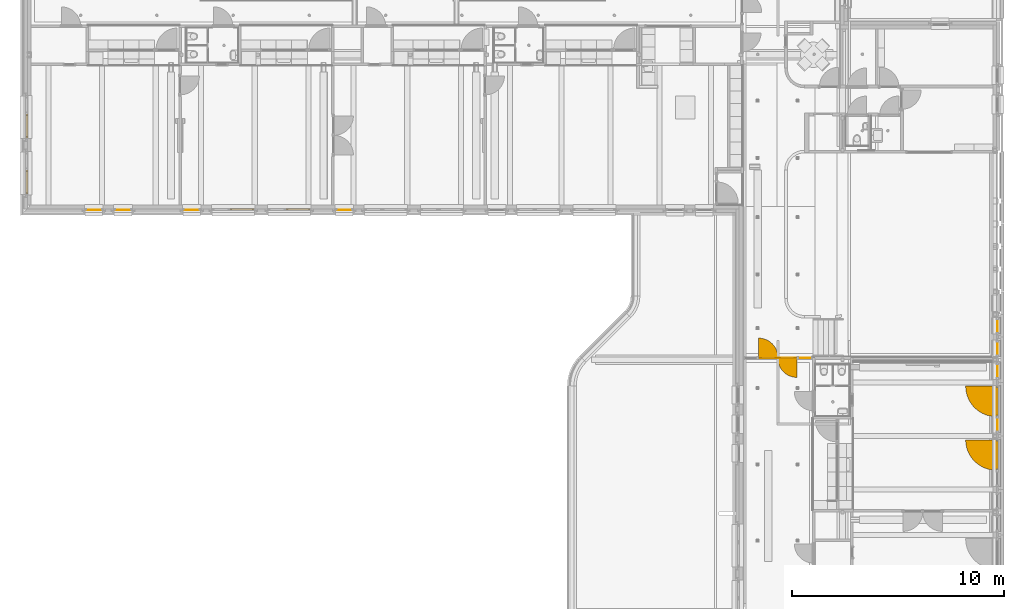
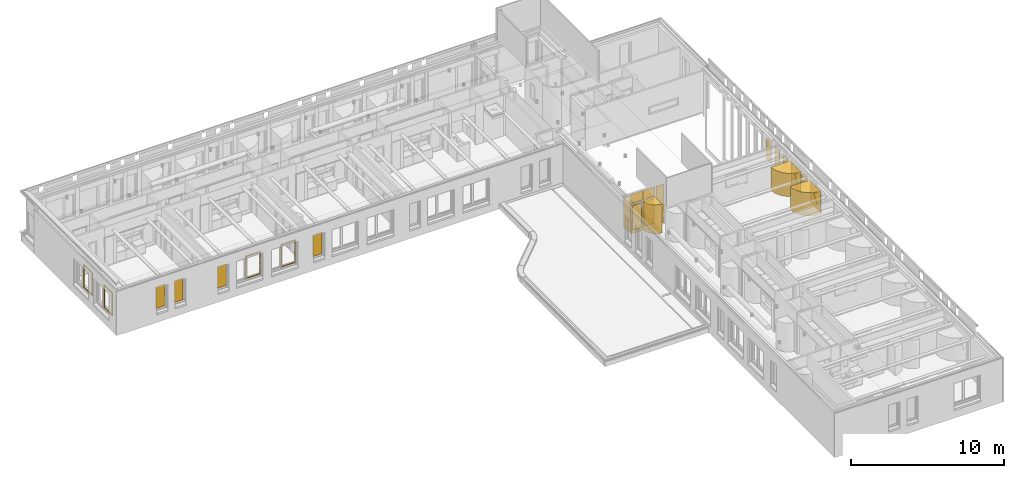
# One storey, part 66 of 128: 25 windows, 2 doors, 7 elements without a shape of their own.
"""IFC2X3 building model written with IfcOpenShell, lengths in millimetres."""

from ifc_helpers import new_model, entity, si_unit, converted_unit, derived_unit, direction, frame, frame_2d, origin, origin_2d_with_axis, place, context, subcontext, project, spatial, polyline, circle_curve, parameter, trimmed, segment, composite_curve, rectangle, outline, extrude, source, transform, mapped, material, type_object, type_shapes, element, aggregate, save


model = new_model("IFC2X3")

# Units and contexts
model_context = context("Model", 3, precision=0.01, world=origin(), true_north=direction((6.123031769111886e-17, 1.0)))
body_context = subcontext(model_context, "Body", "Model", "MODEL_VIEW")
ifc_project = project(units=[si_unit("LENGTHUNIT", "METRE", prefix="MILLI"), si_unit("AREAUNIT", "SQUARE_METRE"), si_unit("VOLUMEUNIT", "CUBIC_METRE"), converted_unit("PLANEANGLEUNIT", "DEGREE", entity("IfcRatioMeasure", 0.017453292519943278), si_unit("PLANEANGLEUNIT", "RADIAN"), dimensions=[0, 0, 0, 0, 0, 0, 0]), si_unit("MASSUNIT", "GRAM", prefix="KILO"), derived_unit("MASSDENSITYUNIT", [(si_unit("MASSUNIT", "GRAM", prefix="KILO"), 1), (si_unit("LENGTHUNIT", "METRE"), -3)]), derived_unit("IONCONCENTRATIONUNIT", [(si_unit("MASSUNIT", "GRAM", prefix="KILO"), 1), (si_unit("LENGTHUNIT", "METRE"), -3)]), derived_unit("MOMENTOFINERTIAUNIT", [(si_unit("LENGTHUNIT", "METRE"), 4)]), si_unit("TIMEUNIT", "SECOND"), si_unit("FREQUENCYUNIT", "HERTZ"), si_unit("THERMODYNAMICTEMPERATUREUNIT", "DEGREE_CELSIUS"), derived_unit("THERMALTRANSMITTANCEUNIT", [(si_unit("MASSUNIT", "GRAM", prefix="KILO"), 1), (si_unit("THERMODYNAMICTEMPERATUREUNIT", "KELVIN"), -1), (si_unit("TIMEUNIT", "SECOND"), -3)]), derived_unit("THERMALCONDUCTANCEUNIT", [(si_unit("MASSUNIT", "GRAM", prefix="KILO"), 1), (si_unit("THERMODYNAMICTEMPERATUREUNIT", "KELVIN"), -1), (si_unit("TIMEUNIT", "SECOND"), -3), (si_unit("LENGTHUNIT", "METRE"), 1)]), derived_unit("VOLUMETRICFLOWRATEUNIT", [(si_unit("LENGTHUNIT", "METRE"), 3), (si_unit("TIMEUNIT", "SECOND"), -1)]), derived_unit("MASSFLOWRATEUNIT", [(si_unit("MASSUNIT", "GRAM", prefix="KILO"), 1), (si_unit("TIMEUNIT", "SECOND"), -1)]), derived_unit("ROTATIONALFREQUENCYUNIT", [(si_unit("TIMEUNIT", "SECOND"), -1)]), si_unit("ELECTRICCURRENTUNIT", "AMPERE"), si_unit("ELECTRICVOLTAGEUNIT", "VOLT"), si_unit("POWERUNIT", "WATT"), si_unit("FORCEUNIT", "NEWTON", prefix="KILO"), si_unit("ILLUMINANCEUNIT", "LUX"), si_unit("LUMINOUSFLUXUNIT", "LUMEN"), si_unit("LUMINOUSINTENSITYUNIT", "CANDELA"), derived_unit("USERDEFINED", [(si_unit("MASSUNIT", "GRAM", prefix="KILO"), -1), (si_unit("LENGTHUNIT", "METRE"), -2), (si_unit("TIMEUNIT", "SECOND"), 3), (si_unit("LUMINOUSFLUXUNIT", "LUMEN"), 1)]), derived_unit("USERDEFINED", [(si_unit("MASSUNIT", "GRAM", prefix="KILO"), 1), (si_unit("TIMEUNIT", "SECOND"), -3), (si_unit("LENGTHUNIT", "METRE"), 3), (si_unit("ELECTRICCURRENTUNIT", "AMPERE"), -2)]), derived_unit("SOUNDPOWERUNIT", [(si_unit("MASSUNIT", "GRAM", prefix="KILO"), 1), (si_unit("TIMEUNIT", "SECOND"), -3), (si_unit("LENGTHUNIT", "METRE"), 2)]), derived_unit("SOUNDPRESSUREUNIT", [(si_unit("MASSUNIT", "GRAM", prefix="KILO"), 1), (si_unit("LENGTHUNIT", "METRE"), -1), (si_unit("TIMEUNIT", "SECOND"), -2)]), derived_unit("LINEARVELOCITYUNIT", [(si_unit("LENGTHUNIT", "METRE"), 1), (si_unit("TIMEUNIT", "SECOND"), -1)]), si_unit("PRESSUREUNIT", "PASCAL"), derived_unit("USERDEFINED", [(si_unit("MASSUNIT", "GRAM", prefix="KILO"), 1), (si_unit("LENGTHUNIT", "METRE"), -2), (si_unit("TIMEUNIT", "SECOND"), -2)]), derived_unit("LINEARFORCEUNIT", [(si_unit("MASSUNIT", "GRAM", prefix="KILO"), 1), (si_unit("TIMEUNIT", "SECOND"), -2)]), derived_unit("PLANARFORCEUNIT", [(si_unit("MASSUNIT", "GRAM", prefix="KILO"), 1), (si_unit("LENGTHUNIT", "METRE"), -1), (si_unit("TIMEUNIT", "SECOND"), -2)]), derived_unit("SPECIFICHEATCAPACITYUNIT", [(si_unit("THERMODYNAMICTEMPERATUREUNIT", "KELVIN"), -1), (si_unit("LENGTHUNIT", "METRE"), 2), (si_unit("TIMEUNIT", "SECOND"), -2)]), derived_unit("HEATINGVALUEUNIT", [(si_unit("LENGTHUNIT", "METRE"), 2), (si_unit("TIMEUNIT", "SECOND"), -2)]), derived_unit("VAPORPERMEABILITYUNIT", [(si_unit("LENGTHUNIT", "METRE"), -1), (si_unit("TIMEUNIT", "SECOND"), 1)]), derived_unit("DYNAMICVISCOSITYUNIT", [(si_unit("MASSUNIT", "GRAM", prefix="KILO"), 1), (si_unit("TIMEUNIT", "SECOND"), -1), (si_unit("LENGTHUNIT", "METRE"), -1)]), derived_unit("THERMALEXPANSIONCOEFFICIENTUNIT", [(si_unit("THERMODYNAMICTEMPERATUREUNIT", "KELVIN"), -1)]), derived_unit("MODULUSOFELASTICITYUNIT", [(si_unit("MASSUNIT", "GRAM", prefix="KILO"), 1), (si_unit("LENGTHUNIT", "METRE"), -1), (si_unit("TIMEUNIT", "SECOND"), -2)]), derived_unit("ISOTHERMALMOISTURECAPACITYUNIT", [(si_unit("LENGTHUNIT", "METRE"), 3), (si_unit("MASSUNIT", "GRAM", prefix="KILO"), -1)]), derived_unit("MOISTUREDIFFUSIVITYUNIT", [(si_unit("TIMEUNIT", "SECOND"), -1), (si_unit("LENGTHUNIT", "METRE"), 2)])], contexts=[model_context])

# Site, building, storey
site_placement = place(None, frame((0.0, 300.0, 0.0)))
site = spatial("IfcSite", under=ifc_project, at=site_placement, Name="<Kadastrale nummers>", CompositionType="ELEMENT")
building_placement = place(site_placement, origin())
building = spatial("IfcBuilding", under=site, at=building_placement, CompositionType="ELEMENT")
storey_placement = place(building_placement, frame((0.0, 0.0, 3560.0000331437)))
storey = spatial("IfcBuildingStorey", under=building, at=storey_placement, Name="01 eerste verdieping", CompositionType="ELEMENT", Elevation=3560.0000331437)

# Curtain wall, doors
curtain_wall_type_1 = type_object("IfcCurtainWallType", Name="Curtain Wall:Merk H12", PredefinedType="NOTDEFINED")
curtain_wall_1_placement = place(storey_placement, frame((0.0, 0.0, -3560.0000331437)))
curtain_wall_1 = element("IfcCurtainWall", 1, at=curtain_wall_1_placement, inside=storey, type_object=curtain_wall_type_1, Name="Curtain Wall:Merk H12", ObjectType="Curtain Wall:Merk H12")
ifc_material_1 = material(Name="HPL F7853 ocean gray")
door_style_1 = type_object("IfcDoorStyle", Name="31_DO_deur_met_stapeldorpel:deur_met_stapeldorpel", ConstructionType="NOTDEFINED", OperationType="NOTDEFINED", ParameterTakesPrecedence=False, Sizeable=False, material=ifc_material_1)
shared_shape_1 = source(origin(), body_context, "Body", "SweptSolid", [
    extrude(outline(polyline([(-451.8749999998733, -1151.4999999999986), (451.8749999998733, -1151.4999999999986), (451.8749999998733, 1151.4999999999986), (-451.8749999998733, 1151.4999999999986), (-451.8749999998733, -1151.4999999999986)]), holes=[polyline([(-331.87499999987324, 911.4999999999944), (331.8749999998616, 911.4999999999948), (331.87499999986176, -1031.4999999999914), (-331.8749999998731, -1031.4999999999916), (-331.87499999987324, 911.4999999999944)])]), frame((0.0, 57.0, 1151.5000000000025), z_axis=(0.0, 1.0, 0.0), x_axis=(1.0, 0.0, 0.0)), (0.0, 0.0, 1.0), 26.999999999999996),
    extrude(outline(polyline([(-451.8749999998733, -1151.4999999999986), (451.8749999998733, -1151.4999999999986), (451.8749999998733, 1151.4999999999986), (-451.8749999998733, 1151.4999999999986), (-451.8749999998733, -1151.4999999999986)]), holes=[polyline([(-331.87499999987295, 911.4999999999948), (331.8749999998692, 911.4999999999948), (331.87499999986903, -1031.499999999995), (-331.8749999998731, -1031.499999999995), (-331.87499999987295, 911.4999999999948)])]), frame((0.0, 30.0, 1151.5000000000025), z_axis=(0.0, 1.0, 0.0), x_axis=(1.0, 0.0, 0.0)), (0.0, 0.0, 1.0), 26.99999999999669),
])
type_shapes(door_style_1, [shared_shape_1])
door_1_placement = place(curtain_wall_1_placement, frame((37898.12500000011, 30936.0, 3670.0000350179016)))
door_1 = element("IfcDoor", 2, at=door_1_placement, type_object=door_style_1, material=ifc_material_1, Name="31_DO_deur_met_stapeldorpel:deur_met_stapeldorpel", ObjectType="31_DO_deur_met_stapeldorpel:deur_met_stapeldorpel", OverallHeight=2303.000000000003, OverallWidth=903.749999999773, context=body_context, shape_type="MappedRepresentation", body=[
    mapped(shared_shape_1, transform((0.0, 0.0, 0.0), scale=1.0)),
])
door_style_2 = type_object("IfcDoorStyle", Name="31_DO_deur_met_stapeldorpel:deur_met_stapeldorpel", ConstructionType="NOTDEFINED", OperationType="NOTDEFINED", ParameterTakesPrecedence=False, Sizeable=False, material=ifc_material_1)
shared_shape_2 = source(origin(), body_context, "Body", "SweptSolid", [
    extrude(outline(polyline([(-448.12500000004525, -1151.4999999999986), (448.12500000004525, -1151.4999999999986), (448.12500000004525, 1151.4999999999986), (-448.12500000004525, 1151.4999999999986), (-448.12500000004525, -1151.4999999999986)]), holes=[polyline([(-328.1250000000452, 911.4999999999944), (328.12500000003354, 911.4999999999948), (328.1250000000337, -1031.4999999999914), (-328.1250000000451, -1031.4999999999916), (-328.1250000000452, 911.4999999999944)])]), frame((0.0, 57.0, 1151.5000000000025), z_axis=(0.0, 1.0, 0.0), x_axis=(1.0, 0.0, 0.0)), (0.0, 0.0, 1.0), 26.999999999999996),
    extrude(outline(polyline([(-448.12500000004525, -1151.4999999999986), (448.12500000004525, -1151.4999999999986), (448.12500000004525, 1151.4999999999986), (-448.12500000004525, 1151.4999999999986), (-448.12500000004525, -1151.4999999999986)]), holes=[polyline([(-328.1250000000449, 911.4999999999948), (328.12500000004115, 911.4999999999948), (328.125000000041, -1031.499999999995), (-328.1250000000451, -1031.499999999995), (-328.1250000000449, 911.4999999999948)])]), frame((0.0, 30.0, 1151.5000000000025), z_axis=(0.0, 1.0, 0.0), x_axis=(1.0, 0.0, 0.0)), (0.0, 0.0, 1.0), 26.99999999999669),
])
type_shapes(door_style_2, [shared_shape_2])
door_2_placement = place(curtain_wall_1_placement, frame((38798.12500000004, 30936.0, 3670.0000350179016)))
door_2 = element("IfcDoor", 3, at=door_2_placement, type_object=door_style_2, material=ifc_material_1, Name="31_DO_deur_met_stapeldorpel:deur_met_stapeldorpel", ObjectType="31_DO_deur_met_stapeldorpel:deur_met_stapeldorpel", OverallHeight=2303.0000000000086, OverallWidth=896.2500000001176, context=body_context, shape_type="MappedRepresentation", body=[
    mapped(shared_shape_2, transform((0.0, 0.0, 0.0), scale=1.0)),
])
aggregate(curtain_wall_1, [door_1, door_2])

# Windows
ifc_material_2 = material(Name="glas_enscape")
window_style_1 = type_object("IfcWindowStyle", Name="WI_subvak1:glas 4", ConstructionType="NOTDEFINED", OperationType="NOTDEFINED", ParameterTakesPrecedence=False, Sizeable=False, material=ifc_material_2)
shared_shape_3 = source(origin(), body_context, "Body", "SweptSolid", [
    extrude(rectangle(XDim=24.000000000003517, YDim=581.7499999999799, at=origin_2d_with_axis()), frame((0.0, 0.0, 0.0), z_axis=(0.0, 0.0, 1.0), x_axis=(0.0, -1.0, 0.0)), (0.0, 0.0, 1.0), 3055.9999999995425),
])
type_shapes(window_style_1, [shared_shape_3])
window_1_placement = place(storey_placement, frame((39627.12500000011, 30993.0, 157.00000187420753)))
element("IfcWindow", 4, at=window_1_placement, inside=storey, type_object=window_style_1, material=ifc_material_2, Name="WI_subvak1:glas 4", ObjectType="WI_subvak1:glas 4", OverallHeight=609.9286498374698, OverallWidth=581.7499999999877, context=body_context, shape_type="MappedRepresentation", body=[
    mapped(shared_shape_3, transform((0.0, 0.0, 0.0), scale=1.0)),
])
window_style_2 = type_object("IfcWindowStyle", Name="WI_subvak1:glas 2", ConstructionType="NOTDEFINED", OperationType="NOTDEFINED", ParameterTakesPrecedence=False, Sizeable=False, material=ifc_material_2)
shared_shape_4 = source(origin(), body_context, "Body", "SweptSolid", [
    extrude(rectangle(XDim=24.00000000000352, YDim=656.2500000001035, at=frame_2d((0.0, 5.684341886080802e-14), x_axis=(1.0, 0.0))), frame((0.0, 0.0, 0.0), z_axis=(0.0, 0.0, 1.0), x_axis=(0.0, -1.0, 0.0)), (0.0, 0.0, 1.0), 1942.9999999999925),
])
type_shapes(window_style_2, [shared_shape_4])
window_2_placement = place(storey_placement, frame((38798.12500000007, 30993.0, 350.0000018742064)))
element("IfcWindow", 5, at=window_2_placement, inside=storey, type_object=window_style_2, material=ifc_material_2, Name="WI_subvak1:glas 2", ObjectType="WI_subvak1:glas 2", OverallHeight=609.9286498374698, OverallWidth=656.2500000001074, context=body_context, shape_type="MappedRepresentation", body=[
    mapped(shared_shape_4, transform((0.0, 0.0, 0.0), scale=1.0)),
])
ifc_material_3 = material(Name="Clearance Zones")
window_style_3 = type_object("IfcWindowStyle", Name="BI deur rechts:BI deur rechts", ConstructionType="NOTDEFINED", OperationType="NOTDEFINED", ParameterTakesPrecedence=False, Sizeable=False, material=ifc_material_3)
shared_shape_5 = source(origin(), body_context, "Body", "SweptSolid", [
    extrude(outline(composite_curve([segment(trimmed(circle_curve(frame_2d((298.75000000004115, 298.7500000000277), x_axis=(1.0, 0.0)), 896.2500000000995), [parameter(179.99999999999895)], [parameter(269.9999999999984)], True, "PARAMETER"), True, "CONTINUOUS"), segment(polyline([(298.75000000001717, -597.5000000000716), (298.75000000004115, 298.7500000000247)]), True, "CONTINUOUS"), segment(polyline([(298.75000000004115, 298.7500000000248), (-597.5000000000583, 298.7500000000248)]), True, "CONTINUOUS")], self_intersect=False)), frame((-149.37500000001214, 325.7500000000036, 0.0), z_axis=(0.0, 0.0, 1.0), x_axis=(-1.0, 0.0, 0.0)), (0.0, 0.0, 1.0), 2302.9999999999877),
])
type_shapes(window_style_3, [shared_shape_5])
window_3_placement = place(storey_placement, frame((38798.12500000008, 30993.0, 110.0000018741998), z_axis=(0.0, 0.0, 1.0), x_axis=(-1.0, 0.0, 0.0)))
element("IfcWindow", 6, at=window_3_placement, inside=storey, type_object=window_style_3, material=ifc_material_3, Name="BI deur rechts:BI deur rechts", ObjectType="BI deur rechts:BI deur rechts", OverallHeight=1180.2500000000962, OverallWidth=896.2500000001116, context=body_context, shape_type="MappedRepresentation", body=[
    mapped(shared_shape_5, transform((0.0, 0.0, 0.0), scale=1.0)),
])
window_style_4 = type_object("IfcWindowStyle", Name="WI_subvak1:glas 2", ConstructionType="NOTDEFINED", OperationType="NOTDEFINED", ParameterTakesPrecedence=False, Sizeable=False, material=ifc_material_2)
shared_shape_6 = source(origin(), body_context, "Body", "SweptSolid", [
    extrude(rectangle(XDim=24.00000000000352, YDim=663.7499999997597, at=origin_2d_with_axis()), frame((0.0, 0.0, 0.0), z_axis=(0.0, 0.0, 1.0), x_axis=(0.0, -1.0, 0.0)), (0.0, 0.0, 1.0), 1942.9999999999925),
])
type_shapes(window_style_4, [shared_shape_6])
window_4_placement = place(storey_placement, frame((37898.12500000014, 30993.0, 350.0000018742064)))
element("IfcWindow", 7, at=window_4_placement, inside=storey, type_object=window_style_4, material=ifc_material_2, Name="WI_subvak1:glas 2", ObjectType="WI_subvak1:glas 2", OverallHeight=609.9286498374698, OverallWidth=663.7499999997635, context=body_context, shape_type="MappedRepresentation", body=[
    mapped(shared_shape_6, transform((0.0, 0.0, 0.0), scale=1.0)),
])
window_style_5 = type_object("IfcWindowStyle", Name="BU deur rechts:BU deur rechts", ConstructionType="NOTDEFINED", OperationType="NOTDEFINED", ParameterTakesPrecedence=False, Sizeable=False, material=ifc_material_3)
shared_shape_7 = source(origin(), body_context, "Body", "SweptSolid", [
    extrude(outline(composite_curve([segment(trimmed(circle_curve(frame_2d((301.2499999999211, 301.2499999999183), x_axis=(1.0, 0.0)), 903.7499999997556), [parameter(180.0)], [parameter(269.99999999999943)], True, "PARAMETER"), True, "CONTINUOUS"), segment(polyline([(301.2499999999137, -602.4999999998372), (301.2499999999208, 301.2499999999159)]), True, "CONTINUOUS"), segment(polyline([(301.2499999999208, 301.2499999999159), (-602.4999999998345, 301.24999999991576)]), True, "CONTINUOUS")], self_intersect=False)), frame((150.62499999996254, -328.2499999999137, 0.0)), (0.0, 0.0, 1.0), 2302.999999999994),
])
type_shapes(window_style_5, [shared_shape_7])
window_5_placement = place(storey_placement, frame((37898.125000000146, 30993.0, 110.00000187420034), z_axis=(0.0, 0.0, 1.0), x_axis=(-1.0, 0.0, 0.0)))
element("IfcWindow", 8, at=window_5_placement, inside=storey, type_object=window_style_5, material=ifc_material_3, Name="BU deur rechts:BU deur rechts", ObjectType="BU deur rechts:BU deur rechts", OverallHeight=1187.749999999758, OverallWidth=903.7499999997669, context=body_context, shape_type="MappedRepresentation", body=[
    mapped(shared_shape_7, transform((0.0, 0.0, 0.0), scale=1.0)),
])
window_style_6 = type_object("IfcWindowStyle", Name="WI_subvak1:glas 4", ConstructionType="NOTDEFINED", OperationType="NOTDEFINED", ParameterTakesPrecedence=False, Sizeable=False, material=ifc_material_2)
shared_shape_8 = source(origin(), body_context, "Body", "SweptSolid", [
    extrude(rectangle(XDim=24.000000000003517, YDim=903.749999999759, at=frame_2d((0.0, -2.842170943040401e-14), x_axis=(1.0, 0.0))), frame((0.0, 0.0, 0.0), z_axis=(0.0, 0.0, 1.0), x_axis=(0.0, -1.0, 0.0)), (0.0, 0.0, 1.0), 709.9999999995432),
])
type_shapes(window_style_6, [shared_shape_8])
window_6_placement = place(storey_placement, frame((37898.12500000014, 30993.0, 2503.0)))
element("IfcWindow", 9, at=window_6_placement, inside=storey, type_object=window_style_6, material=ifc_material_2, Name="WI_subvak1:glas 4", ObjectType="WI_subvak1:glas 4", OverallHeight=609.9286498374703, OverallWidth=903.7499999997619, context=body_context, shape_type="MappedRepresentation", body=[
    mapped(shared_shape_8, transform((0.0, 0.0, 0.0), scale=1.0)),
])
window_style_7 = type_object("IfcWindowStyle", Name="WI_subvak1:glas 4", ConstructionType="NOTDEFINED", OperationType="NOTDEFINED", ParameterTakesPrecedence=False, Sizeable=False, material=ifc_material_2)
shared_shape_9 = source(origin(), body_context, "Body", "SweptSolid", [
    extrude(rectangle(XDim=24.000000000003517, YDim=896.2500000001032, at=origin_2d_with_axis()), frame((0.0, 0.0, 0.0), z_axis=(0.0, 0.0, 1.0), x_axis=(0.0, -1.0, 0.0)), (0.0, 0.0, 1.0), 709.9999999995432),
])
type_shapes(window_style_7, [shared_shape_9])
window_7_placement = place(storey_placement, frame((38798.12500000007, 30993.0, 2503.0)))
element("IfcWindow", 10, at=window_7_placement, inside=storey, type_object=window_style_7, material=ifc_material_2, Name="WI_subvak1:glas 4", ObjectType="WI_subvak1:glas 4", OverallHeight=609.9286498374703, OverallWidth=896.2500000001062, context=body_context, shape_type="MappedRepresentation", body=[
    mapped(shared_shape_9, transform((0.0, 0.0, 0.0), scale=1.0)),
])

# Curtain wall, window
curtain_wall_type_2 = type_object("IfcCurtainWallType", Name="Curtain Wall:K_22", PredefinedType="NOTDEFINED")
curtain_wall_2_placement = place(storey_placement, frame((0.0, 0.0, -3560.0000331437)))
curtain_wall_2 = element("IfcCurtainWall", 11, at=curtain_wall_2_placement, inside=storey, type_object=curtain_wall_type_2, Name="Curtain Wall:K_22", ObjectType="Curtain Wall:K_22")
ifc_material_4 = material(Name="ISR_Aluminium")
window_style_8 = type_object("IfcWindowStyle", Name="31_WI_raam_1:GEALAN KUBUS RAAM", ConstructionType="NOTDEFINED", OperationType="NOTDEFINED", ParameterTakesPrecedence=False, Sizeable=False, material=ifc_material_4)
shared_shape_10 = source(origin(), body_context, "Body", "SweptSolid", [
    extrude(outline(polyline([(-717.0, -918.9999824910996), (717.0, -918.9999824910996), (717.0, 918.9999824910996), (-717.0, 918.9999824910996), (-717.0, -918.9999824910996)]), holes=[polyline([(-653.0, 854.9999824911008), (653.0, 854.9999824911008), (653.0, -854.9999824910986), (-653.0, -854.9999824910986), (-653.0, 854.9999824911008)])]), frame((0.0, 63.0, 854.9999824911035), z_axis=(0.0, -1.0, 0.0), x_axis=(-1.0, 0.0, 0.0)), (0.0, 0.0, 1.0), 40.50000000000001),
    extrude(outline(polyline([(-717.0, -918.9999824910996), (717.0, -918.9999824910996), (717.0, 918.9999824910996), (-717.0, 918.9999824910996), (-717.0, -918.9999824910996)]), holes=[polyline([(-653.0, 854.9999824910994), (653.0, 854.9999824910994), (653.0, -854.9999824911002), (-653.0, -854.9999824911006), (-653.0, 854.9999824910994)])]), frame((0.0, 22.499999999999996, 854.9999824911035), z_axis=(0.0, -1.0, 0.0), x_axis=(-1.0, 0.0, 0.0)), (0.0, 0.0, 1.0), 40.5),
])
type_shapes(window_style_8, [shared_shape_10])
window_8_placement = place(curtain_wall_2_placement, frame((48668.0, 28937.0, 4580.0000331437), z_axis=(0.0, 0.0, 1.0), x_axis=(0.0, -1.0, 0.0)))
window_8 = element("IfcWindow", 12, at=window_8_placement, type_object=window_style_8, material=ifc_material_4, Name="31_WI_raam_1:GEALAN KUBUS RAAM", ObjectType="31_WI_raam_1:GEALAN KUBUS RAAM", OverallHeight=1853.9999649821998, OverallWidth=1434.0000000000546, context=body_context, shape_type="MappedRepresentation", body=[
    mapped(shared_shape_10, transform((0.0, 0.0, 0.0), scale=1.0)),
])
aggregate(curtain_wall_2, [window_8])

curtain_wall_3_placement = place(storey_placement, frame((0.0, 0.0, -3560.0000331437)))
curtain_wall_3 = element("IfcCurtainWall", 13, at=curtain_wall_3_placement, inside=storey, type_object=curtain_wall_type_2, Name="Curtain Wall:K_22", ObjectType="Curtain Wall:K_22")
window_9_placement = place(curtain_wall_3_placement, frame((48668.0, 26407.0, 4580.0000331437), z_axis=(0.0, 0.0, 1.0), x_axis=(0.0, -1.0, 0.0)))
window_9 = element("IfcWindow", 14, at=window_9_placement, type_object=window_style_8, material=ifc_material_4, Name="31_WI_raam_1:GEALAN KUBUS RAAM", ObjectType="31_WI_raam_1:GEALAN KUBUS RAAM", OverallHeight=1853.9999649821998, OverallWidth=1434.0000000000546, context=body_context, shape_type="MappedRepresentation", body=[
    mapped(shared_shape_10, transform((0.0, 0.0, 0.0), scale=1.0)),
])
aggregate(curtain_wall_3, [window_9])

curtain_wall_type_3 = type_object("IfcCurtainWallType", Name="Curtain Wall:K_24", PredefinedType="NOTDEFINED")
curtain_wall_4_placement = place(storey_placement, frame((0.0, 0.0, -3560.0000331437)))
curtain_wall_4 = element("IfcCurtainWall", 15, at=curtain_wall_4_placement, inside=storey, type_object=curtain_wall_type_3, Name="Curtain Wall:K_24", ObjectType="Curtain Wall:K_24")
window_style_9 = type_object("IfcWindowStyle", Name="31_WI_raam_1:GEALAN KUBUS RAAM", ConstructionType="NOTDEFINED", OperationType="NOTDEFINED", ParameterTakesPrecedence=False, Sizeable=False, material=ifc_material_4)
shared_shape_11 = source(origin(), body_context, "Body", "SweptSolid", [
    extrude(outline(polyline([(-567.0, -919.0), (567.0, -919.0), (567.0, 919.0), (-567.0, 919.0), (-567.0, -919.0)]), holes=[polyline([(-503.0, 855.0), (503.0, 855.0), (503.0, -855.0), (-503.0, -855.0), (-503.0, 855.0)])]), frame((0.0, 63.0, 855.0), z_axis=(0.0, -1.0, 0.0), x_axis=(-1.0, 0.0, 0.0)), (0.0, 0.0, 1.0), 40.50000000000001),
    extrude(outline(polyline([(-567.0, -919.0), (567.0, -919.0), (567.0, 919.0), (-567.0, 919.0), (-567.0, -919.0)]), holes=[polyline([(-503.0, 855.0), (503.0, 855.0), (503.0, -855.0), (-503.0, -855.0), (-503.0, 855.0)])]), frame((0.0, 22.499999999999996, 855.0), z_axis=(0.0, -1.0, 0.0), x_axis=(-1.0, 0.0, 0.0)), (0.0, 0.0, 1.0), 40.5),
])
type_shapes(window_style_9, [shared_shape_11])
window_10_placement = place(curtain_wall_4_placement, frame((15707.0, 38031.9986232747, 4580.0000331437), z_axis=(0.0, 0.0, 1.0), x_axis=(-1.0, 0.0, 0.0)))
window_10 = element("IfcWindow", 16, at=window_10_placement, type_object=window_style_9, material=ifc_material_4, Name="31_WI_raam_1:GEALAN KUBUS RAAM", ObjectType="31_WI_raam_1:GEALAN KUBUS RAAM", OverallHeight=1854.0000000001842, OverallWidth=1134.0000000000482, context=body_context, shape_type="MappedRepresentation", body=[
    mapped(shared_shape_11, transform((0.0, 0.0, 0.0), scale=1.0)),
])
aggregate(curtain_wall_4, [window_10])

curtain_wall_5_placement = place(storey_placement, frame((0.0, 0.0, -3560.0000331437)))
curtain_wall_5 = element("IfcCurtainWall", 17, at=curtain_wall_5_placement, inside=storey, type_object=curtain_wall_type_3, Name="Curtain Wall:K_24", ObjectType="Curtain Wall:K_24")
window_11_placement = place(curtain_wall_5_placement, frame((13057.0, 38031.9986232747, 4580.0000331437), z_axis=(0.0, 0.0, 1.0), x_axis=(-1.0, 0.0, 0.0)))
window_11 = element("IfcWindow", 18, at=window_11_placement, type_object=window_style_9, material=ifc_material_4, Name="31_WI_raam_1:GEALAN KUBUS RAAM", ObjectType="31_WI_raam_1:GEALAN KUBUS RAAM", OverallHeight=1854.0000000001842, OverallWidth=1134.0000000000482, context=body_context, shape_type="MappedRepresentation", body=[
    mapped(shared_shape_11, transform((0.0, 0.0, 0.0), scale=1.0)),
])
aggregate(curtain_wall_5, [window_11])

curtain_wall_6_placement = place(storey_placement, frame((0.0, 0.0, -3560.0000331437)))
curtain_wall_6 = element("IfcCurtainWall", 19, at=curtain_wall_6_placement, inside=storey, type_object=curtain_wall_type_3, Name="Curtain Wall:K_24", ObjectType="Curtain Wall:K_24")
window_12_placement = place(curtain_wall_6_placement, frame((2931.99862327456, 39288.0, 4580.0000331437), z_axis=(0.0, 0.0, 1.0), x_axis=(0.0, 1.0, 0.0)))
window_12 = element("IfcWindow", 20, at=window_12_placement, type_object=window_style_9, material=ifc_material_4, Name="31_WI_raam_1:GEALAN KUBUS RAAM", ObjectType="31_WI_raam_1:GEALAN KUBUS RAAM", OverallHeight=1854.0000000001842, OverallWidth=1134.0000000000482, context=body_context, shape_type="MappedRepresentation", body=[
    mapped(shared_shape_11, transform((0.0, 0.0, 0.0), scale=1.0)),
])
aggregate(curtain_wall_6, [window_12])

curtain_wall_7_placement = place(storey_placement, frame((0.0, 0.0, -3560.0000331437)))
curtain_wall_7 = element("IfcCurtainWall", 21, at=curtain_wall_7_placement, inside=storey, type_object=curtain_wall_type_3, Name="Curtain Wall:K_24", ObjectType="Curtain Wall:K_24")
window_13_placement = place(curtain_wall_7_placement, frame((2931.998623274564, 41938.0, 4580.0000331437), z_axis=(0.0, 0.0, 1.0), x_axis=(0.0, 1.0, 0.0)))
window_13 = element("IfcWindow", 22, at=window_13_placement, type_object=window_style_9, material=ifc_material_4, Name="31_WI_raam_1:GEALAN KUBUS RAAM", ObjectType="31_WI_raam_1:GEALAN KUBUS RAAM", OverallHeight=1854.0000000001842, OverallWidth=1134.0000000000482, context=body_context, shape_type="MappedRepresentation", body=[
    mapped(shared_shape_11, transform((0.0, 0.0, 0.0), scale=1.0)),
])
aggregate(curtain_wall_7, [window_13])

# Windows
window_style_10 = type_object("IfcWindowStyle", Name="WI_subvak1:glas 4", ConstructionType="NOTDEFINED", OperationType="NOTDEFINED", ParameterTakesPrecedence=False, Sizeable=False, material=ifc_material_2)
shared_shape_12 = source(origin(), body_context, "Body", "SweptSolid", [
    extrude(rectangle(XDim=680.000000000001, YDim=24.00000000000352, at=origin_2d_with_axis()), origin(), (0.0, 0.0, 1.0), 1710.0000000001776),
])
type_shapes(window_style_10, [shared_shape_12])
for number, where, name in (
    (23, (10680.0, 37975.0, 1020.0), "WI_subvak1:glas 4"),
    (24, (17880.0, 37975.0, 1020.0), "WI_subvak1:glas 4"),
    (25, (7440.0, 37975.0, 1020.0), "WI_subvak1:glas 4"),
    (26, (6060.0, 37975.0, 1020.0), "WI_subvak1:glas 4"),
):
    element("IfcWindow", number, at=place(storey_placement, frame(where)), inside=storey, type_object=window_style_10, material=ifc_material_2, Name=name, ObjectType="WI_subvak1:glas 4", OverallHeight=609.9286498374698, OverallWidth=680.0000000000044, context=body_context, shape_type="MappedRepresentation", body=[
        mapped(shared_shape_12, transform((0.0, 0.0, 0.0), scale=1.0)),
    ])
window_style_11 = type_object("IfcWindowStyle", Name="WI_subvak1:glas 4", ConstructionType="NOTDEFINED", OperationType="NOTDEFINED", ParameterTakesPrecedence=False, Sizeable=False, material=ifc_material_2)
shared_shape_13 = source(origin(), body_context, "Body", "SweptSolid", [
    extrude(rectangle(XDim=590.000000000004, YDim=24.00000000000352, at=frame_2d((0.0, -1.7763568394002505e-15), x_axis=(1.0, 0.0))), origin(), (0.0, 0.0, 1.0), 1709.9999649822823),
])
type_shapes(window_style_11, [shared_shape_13])
for number, where, z_axis, x_axis, name in (
    (27, (48725.0, 32505.0, 1020.0), (0.0, 0.0, 1.0), (0.0, 1.0, 0.0), "WI_subvak1:glas 4"),
    (28, (48725.0, 31435.0, 1020.0), (0.0, 0.0, 1.0), (0.0, 1.0, 0.0), "WI_subvak1:glas 4"),
    (29, (48725.0, 30365.0, 1020.0), (0.0, 0.0, 1.0), (0.0, 1.0, 0.0), "WI_subvak1:glas 4"),
    (30, (48725.0, 27835.0, 1020.0), (0.0, 0.0, 1.0), (0.0, 1.0, 0.0), "WI_subvak1:glas 4"),
):
    element("IfcWindow", number, at=place(storey_placement, frame(where, z_axis=z_axis, x_axis=x_axis)), inside=storey, type_object=window_style_11, material=ifc_material_2, Name=name, ObjectType="WI_subvak1:glas 4", OverallHeight=609.9286498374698, OverallWidth=590.0000000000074, context=body_context, shape_type="MappedRepresentation", body=[
        mapped(shared_shape_13, transform((0.0, 0.0, 0.0), scale=1.0)),
    ])
window_style_12 = type_object("IfcWindowStyle", Name="BI draai-val rechts:BI draai-val rechts", ConstructionType="NOTDEFINED", OperationType="NOTDEFINED", ParameterTakesPrecedence=False, Sizeable=False, material=ifc_material_3)
shared_shape_14 = source(origin(), body_context, "Body", "SweptSolid", [
    extrude(outline(composite_curve([segment(trimmed(circle_curve(frame_2d((1204.4571999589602, 158.5697986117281), x_axis=(1.0, 0.0)), 1837.999964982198), [parameter(180.00000000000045)], [parameter(195.00000000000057)], True, "PARAMETER"), True, "CONTINUOUS"), segment(polyline([(-570.914434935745, -317.1395972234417), (1204.4571999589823, 158.56979861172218)]), True, "CONTINUOUS"), segment(polyline([(1204.4571999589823, 158.56979861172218), (-633.5427650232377, 158.56979861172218)]), True, "CONTINUOUS")], self_intersect=False)), frame((-717.0, -199.06979861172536, 1184.4571999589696), z_axis=(1.0, 0.0, 0.0), x_axis=(0.0, 0.0, -1.0)), (0.0, 0.0, 1.0), 1434.0000000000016),
    extrude(outline(composite_curve([segment(polyline([(-956.0, -478.0), (478.0, -478.0)]), True, "CONTINUOUS"), segment(polyline([(478.0, -478.0), (478.0, 956.0)]), True, "CONTINUOUS"), segment(trimmed(circle_curve(frame_2d((478.0, -478.0), x_axis=(-1.0, 0.0)), 1434.000000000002), [parameter(270.0000000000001)], [parameter(0.0)], True, "PARAMETER"), True, "CONTINUOUS")], self_intersect=False)), frame((-239.0, -518.5000000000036, -20.0), z_axis=(0.0, 0.0, 1.0), x_axis=(-1.0, 0.0, 0.0)), (0.0, 0.0, 1.0), 1837.999964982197),
])
type_shapes(window_style_12, [shared_shape_14])
for number, where, z_axis, x_axis, name in (
    (31, (48690.499999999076, 28937.0, 976.0), (0.0, 0.0, 1.0), (0.0, -1.0, 0.0), "BI draai-val rechts:BI draai-val rechts"),
    (32, (48690.499999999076, 26407.0, 976.0), (0.0, 0.0, 1.0), (0.0, -1.0, 0.0), "BI draai-val rechts:BI draai-val rechts"),
):
    element("IfcWindow", number, at=place(storey_placement, frame(where, z_axis=z_axis, x_axis=x_axis)), inside=storey, type_object=window_style_12, material=ifc_material_3, Name=name, ObjectType="BI draai-val rechts:BI draai-val rechts", OverallHeight=1515.0000000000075, OverallWidth=1434.0000000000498, context=body_context, shape_type="MappedRepresentation", body=[
        mapped(shared_shape_14, transform((0.0, 0.0, 0.0), scale=1.0)),
    ])
window_style_13 = type_object("IfcWindowStyle", Name="WI_subvak:glas 2", ConstructionType="NOTDEFINED", OperationType="NOTDEFINED", ParameterTakesPrecedence=False, Sizeable=False, material=ifc_material_2)
shared_shape_15 = source(origin(), body_context, "Body", "SweptSolid", [
    extrude(rectangle(XDim=1306.000000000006, YDim=24.00000000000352, at=frame_2d((0.0, -1.7763568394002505e-15), x_axis=(1.0, 0.0))), origin(), (0.0, 0.0, 1.0), 1709.9999649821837),
])
type_shapes(window_style_13, [shared_shape_15])
for number, where, z_axis, x_axis, name in (
    (33, (48690.499999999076, 28937.0, 1020.0), (0.0, 0.0, 1.0), (0.0, 1.0, 0.0), "WI_subvak:glas 2"),
    (34, (48690.499999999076, 26407.0, 1020.0), (0.0, 0.0, 1.0), (0.0, 1.0, 0.0), "WI_subvak:glas 2"),
):
    element("IfcWindow", number, at=place(storey_placement, frame(where, z_axis=z_axis, x_axis=x_axis)), inside=storey, type_object=window_style_13, material=ifc_material_2, Name=name, ObjectType="WI_subvak:glas 2", OverallHeight=609.928649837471, OverallWidth=1306.0000000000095, context=body_context, shape_type="MappedRepresentation", body=[
        mapped(shared_shape_15, transform((0.0, 0.0, 0.0), scale=1.0)),
    ])

save(model, "model.ifc")
